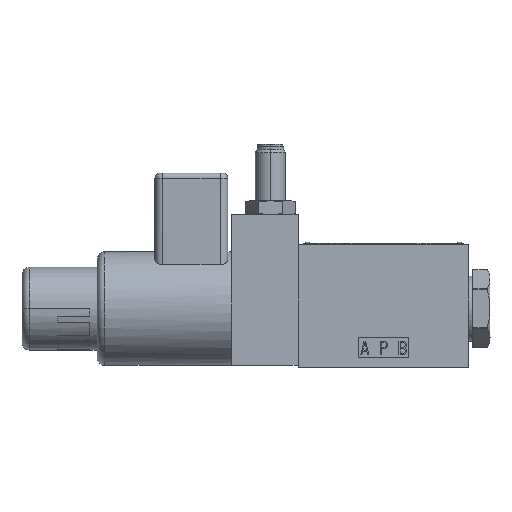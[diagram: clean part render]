
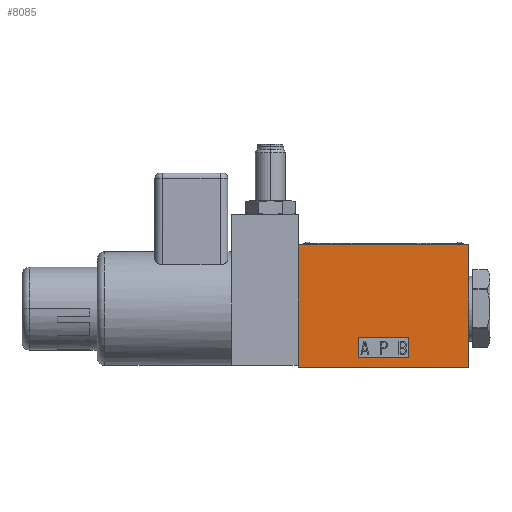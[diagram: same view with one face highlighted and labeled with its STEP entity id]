
A CAD part, top view. The second image highlights one B-rep face of the part: STEP entity #8085.
In plain terms, the highlighted planar face has unit normal (0, 0, 1).
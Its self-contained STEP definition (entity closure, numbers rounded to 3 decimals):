
#1277=DIRECTION('',(-1.,0.,0.));
#1278=VECTOR('',#1277,68.);
#1279=CARTESIAN_POINT('',(34.,-23.5,22.5));
#1280=LINE('',#1279,#1278);
#1281=DIRECTION('',(0.,1.,0.));
#1282=VECTOR('',#1281,49.);
#1283=CARTESIAN_POINT('',(-34.,-23.5,22.5));
#1284=LINE('',#1283,#1282);
#1285=DIRECTION('',(1.,0.,0.));
#1286=VECTOR('',#1285,68.);
#1287=CARTESIAN_POINT('',(-34.,25.5,22.5));
#1288=LINE('',#1287,#1286);
#1289=DIRECTION('',(0.,-1.,0.));
#1290=VECTOR('',#1289,49.);
#1291=CARTESIAN_POINT('',(34.,25.5,22.5));
#1292=LINE('',#1291,#1290);
#2197=DIRECTION('',(-1.,0.,0.));
#2198=VECTOR('',#2197,20.);
#2199=CARTESIAN_POINT('',(10.,-19.5,22.5));
#2200=LINE('',#2199,#2198);
#2205=DIRECTION('',(0.,1.,0.));
#2206=VECTOR('',#2205,8.);
#2207=CARTESIAN_POINT('',(-10.,-19.5,22.5));
#2208=LINE('',#2207,#2206);
#2213=DIRECTION('',(1.,0.,0.));
#2214=VECTOR('',#2213,20.);
#2215=CARTESIAN_POINT('',(-10.,-11.5,22.5));
#2216=LINE('',#2215,#2214);
#2221=DIRECTION('',(0.,-1.,0.));
#2222=VECTOR('',#2221,8.);
#2223=CARTESIAN_POINT('',(10.,-11.5,22.5));
#2224=LINE('',#2223,#2222);
#5325=CARTESIAN_POINT('',(34.,25.5,22.5));
#5326=VERTEX_POINT('',#5325);
#5327=CARTESIAN_POINT('',(-34.,25.5,22.5));
#5328=VERTEX_POINT('',#5327);
#5407=CARTESIAN_POINT('',(-34.,-23.5,22.5));
#5408=VERTEX_POINT('',#5407);
#5409=CARTESIAN_POINT('',(34.,-23.5,22.5));
#5410=VERTEX_POINT('',#5409);
#5467=CARTESIAN_POINT('',(10.,-19.5,22.5));
#5468=CARTESIAN_POINT('',(-10.,-19.5,22.5));
#5469=VERTEX_POINT('',#5467);
#5470=VERTEX_POINT('',#5468);
#5471=CARTESIAN_POINT('',(10.,-11.5,22.5));
#5472=VERTEX_POINT('',#5471);
#5473=CARTESIAN_POINT('',(-10.,-11.5,22.5));
#5474=VERTEX_POINT('',#5473);
#8062=CARTESIAN_POINT('',(0.,0.,22.5));
#8063=DIRECTION('',(0.,0.,1.));
#8064=DIRECTION('',(1.,0.,0.));
#8065=AXIS2_PLACEMENT_3D('',#8062,#8063,#8064);
#8066=PLANE('',#8065);
#8068=ORIENTED_EDGE('',*,*,#8067,.T.);
#8069=ORIENTED_EDGE('',*,*,#6616,.T.);
#8070=ORIENTED_EDGE('',*,*,#6522,.T.);
#8072=ORIENTED_EDGE('',*,*,#8071,.T.);
#8073=EDGE_LOOP('',(#8068,#8069,#8070,#8072));
#8074=FACE_OUTER_BOUND('',#8073,.F.);
#8076=ORIENTED_EDGE('',*,*,#8075,.F.);
#8078=ORIENTED_EDGE('',*,*,#8077,.F.);
#8080=ORIENTED_EDGE('',*,*,#8079,.F.);
#8082=ORIENTED_EDGE('',*,*,#8081,.F.);
#8083=EDGE_LOOP('',(#8076,#8078,#8080,#8082));
#8084=FACE_BOUND('',#8083,.F.);
#6522=EDGE_CURVE('',#5328,#5326,#1288,.T.);
#6616=EDGE_CURVE('',#5408,#5328,#1284,.T.);
#8067=EDGE_CURVE('',#5410,#5408,#1280,.T.);
#8071=EDGE_CURVE('',#5326,#5410,#1292,.T.);
#8075=EDGE_CURVE('',#5469,#5470,#2200,.T.);
#8077=EDGE_CURVE('',#5472,#5469,#2224,.T.);
#8079=EDGE_CURVE('',#5474,#5472,#2216,.T.);
#8081=EDGE_CURVE('',#5470,#5474,#2208,.T.);
#8085=ADVANCED_FACE('',(#8074,#8084),#8066,.T.);
